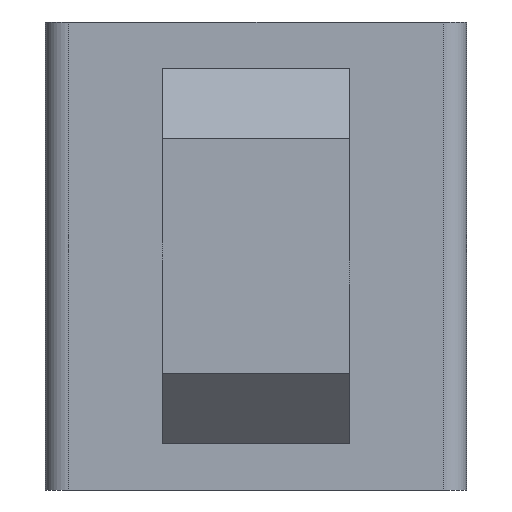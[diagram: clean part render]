
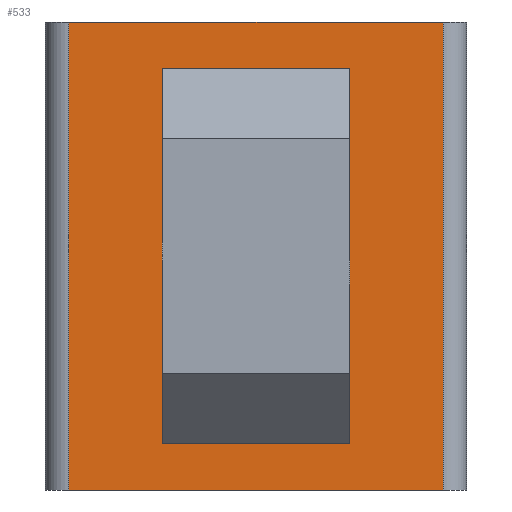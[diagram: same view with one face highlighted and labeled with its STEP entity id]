
A CAD part, front view. The second image highlights one B-rep face of the part: STEP entity #533.
In plain terms, the highlighted planar face has unit normal (0, -1, 0).
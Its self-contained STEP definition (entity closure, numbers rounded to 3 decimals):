
#11 = EDGE_CURVE ( 'NONE', #754, #878, #959, .T. ) ;
#32 = VERTEX_POINT ( 'NONE', #787 ) ;
#38 = DIRECTION ( 'NONE',  ( 0., 1., 0. ) ) ;
#54 = CARTESIAN_POINT ( 'NONE',  ( 4., -11.5, -2. ) ) ;
#146 = VECTOR ( 'NONE', #714, 1000. ) ;
#154 = CARTESIAN_POINT ( 'NONE',  ( 9., -11.5, 10. ) ) ;
#155 = EDGE_CURVE ( 'NONE', #342, #1021, #505, .T. ) ;
#161 = VECTOR ( 'NONE', #573, 1000. ) ;
#182 = CARTESIAN_POINT ( 'NONE',  ( 8., -11.5, 10. ) ) ;
#208 = DIRECTION ( 'NONE',  ( 0., 0., -1. ) ) ;
#214 = EDGE_CURVE ( 'NONE', #1000, #843, #1271, .T. ) ;
#220 = EDGE_LOOP ( 'NONE', ( #512, #520, #285, #442 ) ) ;
#221 = EDGE_CURVE ( 'NONE', #600, #405, #1487, .T. ) ;
#283 = DIRECTION ( 'NONE',  ( 1., 0., 0. ) ) ;
#284 = EDGE_CURVE ( 'NONE', #405, #365, #294, .T. ) ;
#285 = ORIENTED_EDGE ( 'NONE', *, *, #284, .T. ) ;
#291 = CIRCLE ( 'NONE', #649, 2. ) ;
#294 = LINE ( 'NONE', #1312, #146 ) ;
#342 = VERTEX_POINT ( 'NONE', #361 ) ;
#361 = CARTESIAN_POINT ( 'NONE',  ( -2., -11.5, 4. ) ) ;
#365 = VERTEX_POINT ( 'NONE', #1455 ) ;
#373 = VECTOR ( 'NONE', #208, 1000. ) ;
#405 = VERTEX_POINT ( 'NONE', #1334 ) ;
#412 = DIRECTION ( 'NONE',  ( -1., 0., 0. ) ) ;
#442 = ORIENTED_EDGE ( 'NONE', *, *, #766, .T. ) ;
#446 = DIRECTION ( 'NONE',  ( 1., 0., 0. ) ) ;
#449 = CARTESIAN_POINT ( 'NONE',  ( -9., -11.5, -4. ) ) ;
#455 = DIRECTION ( 'NONE',  ( 0., 0., -1. ) ) ;
#478 = CARTESIAN_POINT ( 'NONE',  ( -4., -11.5, 2. ) ) ;
#497 = EDGE_CURVE ( 'NONE', #754, #1021, #866, .T. ) ;
#505 = LINE ( 'NONE', #1542, #667 ) ;
#512 = ORIENTED_EDGE ( 'NONE', *, *, #616, .F. ) ;
#520 = ORIENTED_EDGE ( 'NONE', *, *, #221, .T. ) ;
#533 = ADVANCED_FACE ( 'NONE', ( #793, #1324 ), #891, .F. ) ;
#538 = DIRECTION ( 'NONE',  ( 0., 1., 0. ) ) ;
#549 = DIRECTION ( 'NONE',  ( -1., 0., 0. ) ) ;
#567 = VECTOR ( 'NONE', #586, 1000. ) ;
#573 = DIRECTION ( 'NONE',  ( 1., 0., 0. ) ) ;
#586 = DIRECTION ( 'NONE',  ( 0., 0., 1. ) ) ;
#588 = VECTOR ( 'NONE', #741, 1000. ) ;
#600 = VERTEX_POINT ( 'NONE', #785 ) ;
#610 = CARTESIAN_POINT ( 'NONE',  ( -2., -11.5, 2. ) ) ;
#616 = EDGE_CURVE ( 'NONE', #600, #32, #1269, .T. ) ;
#649 = AXIS2_PLACEMENT_3D ( 'NONE', #610, #837, #1328 ) ;
#667 = VECTOR ( 'NONE', #446, 1000. ) ;
#714 = DIRECTION ( 'NONE',  ( 1., 0., 0. ) ) ;
#730 = AXIS2_PLACEMENT_3D ( 'NONE', #154, #38, #412 ) ;
#741 = DIRECTION ( 'NONE',  ( 0., 0., 1. ) ) ;
#754 = VERTEX_POINT ( 'NONE', #54 ) ;
#765 = CARTESIAN_POINT ( 'NONE',  ( 9., -11.5, 10. ) ) ;
#766 = EDGE_CURVE ( 'NONE', #365, #32, #1008, .T. ) ;
#785 = CARTESIAN_POINT ( 'NONE',  ( -8., -11.5, 10. ) ) ;
#787 = CARTESIAN_POINT ( 'NONE',  ( 8., -11.5, 10. ) ) ;
#793 = FACE_OUTER_BOUND ( 'NONE', #220, .T. ) ;
#815 = CARTESIAN_POINT ( 'NONE',  ( 2., -11.5, -4. ) ) ;
#837 = DIRECTION ( 'NONE',  ( 0., 1., 0. ) ) ;
#843 = VERTEX_POINT ( 'NONE', #1540 ) ;
#866 = LINE ( 'NONE', #1449, #588 ) ;
#878 = VERTEX_POINT ( 'NONE', #815 ) ;
#882 = EDGE_CURVE ( 'NONE', #843, #878, #1083, .T. ) ;
#891 = PLANE ( 'NONE',  #730 ) ;
#905 = EDGE_CURVE ( 'NONE', #1000, #342, #291, .T. ) ;
#937 = CARTESIAN_POINT ( 'NONE',  ( -4., -11.5, -8. ) ) ;
#959 = CIRCLE ( 'NONE', #1107, 2. ) ;
#964 = ORIENTED_EDGE ( 'NONE', *, *, #155, .T. ) ;
#1000 = VERTEX_POINT ( 'NONE', #478 ) ;
#1008 = LINE ( 'NONE', #182, #567 ) ;
#1021 = VERTEX_POINT ( 'NONE', #1561 ) ;
#1083 = LINE ( 'NONE', #449, #161 ) ;
#1107 = AXIS2_PLACEMENT_3D ( 'NONE', #1258, #538, #549 ) ;
#1176 = ORIENTED_EDGE ( 'NONE', *, *, #905, .T. ) ;
#1181 = ORIENTED_EDGE ( 'NONE', *, *, #214, .F. ) ;
#1255 = ORIENTED_EDGE ( 'NONE', *, *, #11, .T. ) ;
#1258 = CARTESIAN_POINT ( 'NONE',  ( 2., -11.5, -2. ) ) ;
#1269 = LINE ( 'NONE', #765, #1343 ) ;
#1271 = LINE ( 'NONE', #937, #373 ) ;
#1296 = ORIENTED_EDGE ( 'NONE', *, *, #882, .F. ) ;
#1302 = CARTESIAN_POINT ( 'NONE',  ( -8., -11.5, 10. ) ) ;
#1312 = CARTESIAN_POINT ( 'NONE',  ( 9., -11.5, -10. ) ) ;
#1324 = FACE_BOUND ( 'NONE', #1514, .T. ) ;
#1328 = DIRECTION ( 'NONE',  ( -1., 0., 0. ) ) ;
#1334 = CARTESIAN_POINT ( 'NONE',  ( -8., -11.5, -10. ) ) ;
#1343 = VECTOR ( 'NONE', #283, 1000. ) ;
#1362 = VECTOR ( 'NONE', #455, 1000. ) ;
#1449 = CARTESIAN_POINT ( 'NONE',  ( 4., -11.5, -8. ) ) ;
#1455 = CARTESIAN_POINT ( 'NONE',  ( 8., -11.5, -10. ) ) ;
#1487 = LINE ( 'NONE', #1302, #1362 ) ;
#1493 = ORIENTED_EDGE ( 'NONE', *, *, #497, .F. ) ;
#1514 = EDGE_LOOP ( 'NONE', ( #1181, #1176, #964, #1493, #1255, #1296 ) ) ;
#1540 = CARTESIAN_POINT ( 'NONE',  ( -4., -11.5, -4. ) ) ;
#1542 = CARTESIAN_POINT ( 'NONE',  ( -9., -11.5, 4. ) ) ;
#1561 = CARTESIAN_POINT ( 'NONE',  ( 4., -11.5, 4. ) ) ;
